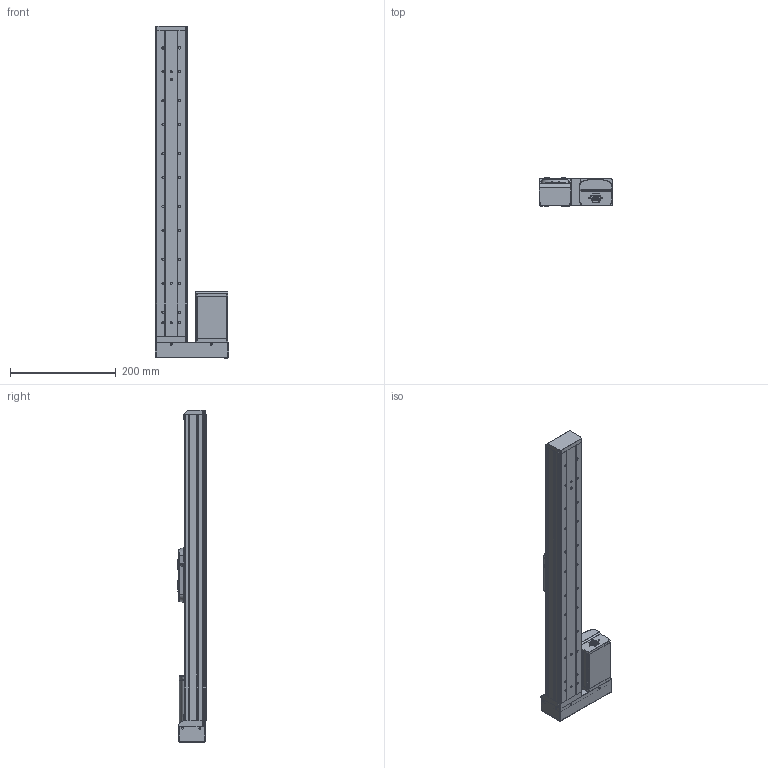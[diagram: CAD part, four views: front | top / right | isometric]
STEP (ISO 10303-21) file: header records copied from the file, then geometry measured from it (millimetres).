
FILE_DESCRIPTION (( 'STEP AP203' ), '1' );
FILE_NAME ('GERC60-450-FLXD.STEP', '2020-05-21T07:19:42', ( '' ), ( '' ), 'SwSTEP 2.0', 'SolidWorks 2019', '' );
FILE_SCHEMA (( 'CONFIG_CONTROL_DESIGN' ));
Length unit declared in the file: millimetre
Products named in the file (3): GERC60-450-FLXD; Group3^GERC60-450-FLXD_defeature_GMT; Group4^GERC60-450-FLXD_defeature_GMT
Assembly tree (2 placements, depth 2):
  GERC60-450-FLXD
    Group3^GERC60-450-FLXD_defeature_GMT
    Group4^GERC60-450-FLXD_defeature_GMT
Bounding box: 138.5 x 53 x 628 mm (x, y, z)
Volume: 1113826.5 mm3; surface area: 367957.3 mm2
Topology: 4 solids, 4 shells, 1822 faces, 4810 edges, 3005 vertices
Faces by surface type: plane 819, cylinder 609, torus 128, bspline 123, cone 111, sphere 32
Entity records: 65646 total; most frequent: CARTESIAN_POINT 20997, ORIENTED_EDGE 9566, DIRECTION 9138, EDGE_CURVE 4783, AXIS2_PLACEMENT_3D 3293, VERTEX_POINT 2999, LINE 2552, VECTOR 2552
